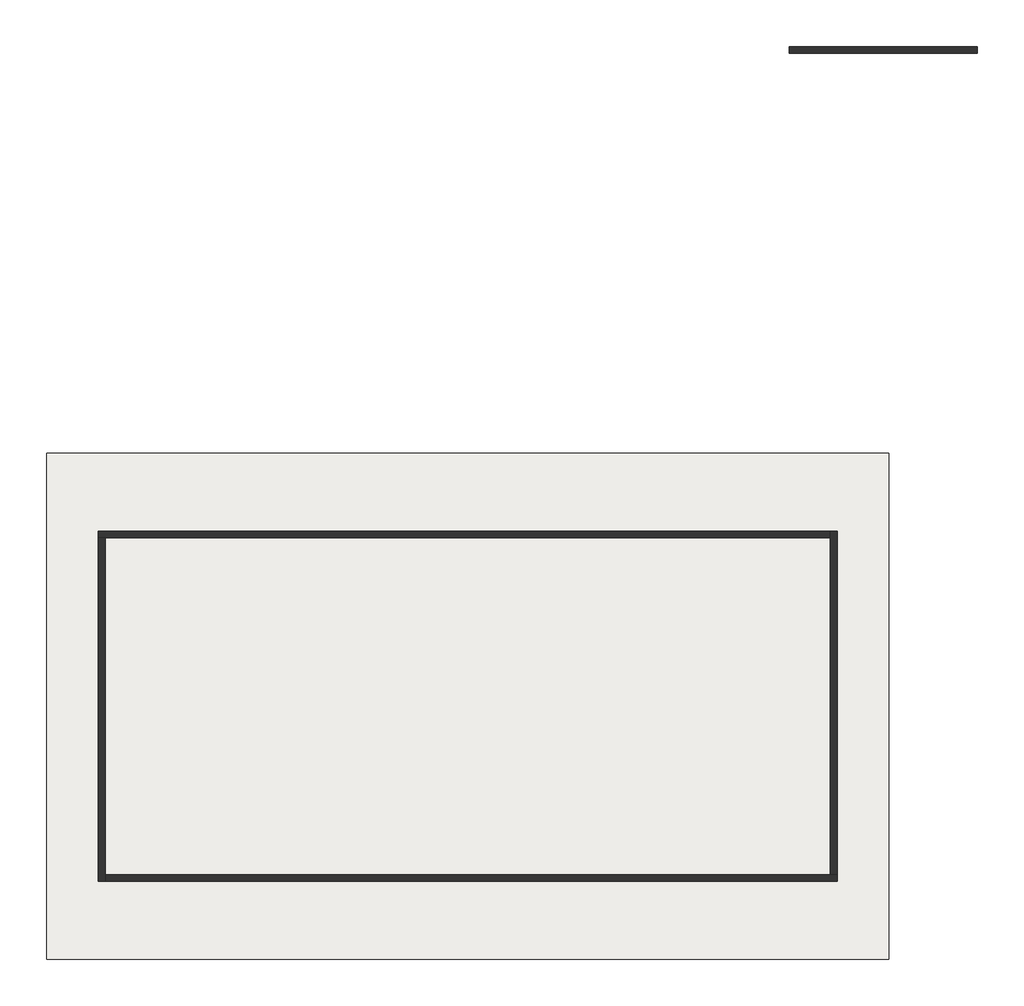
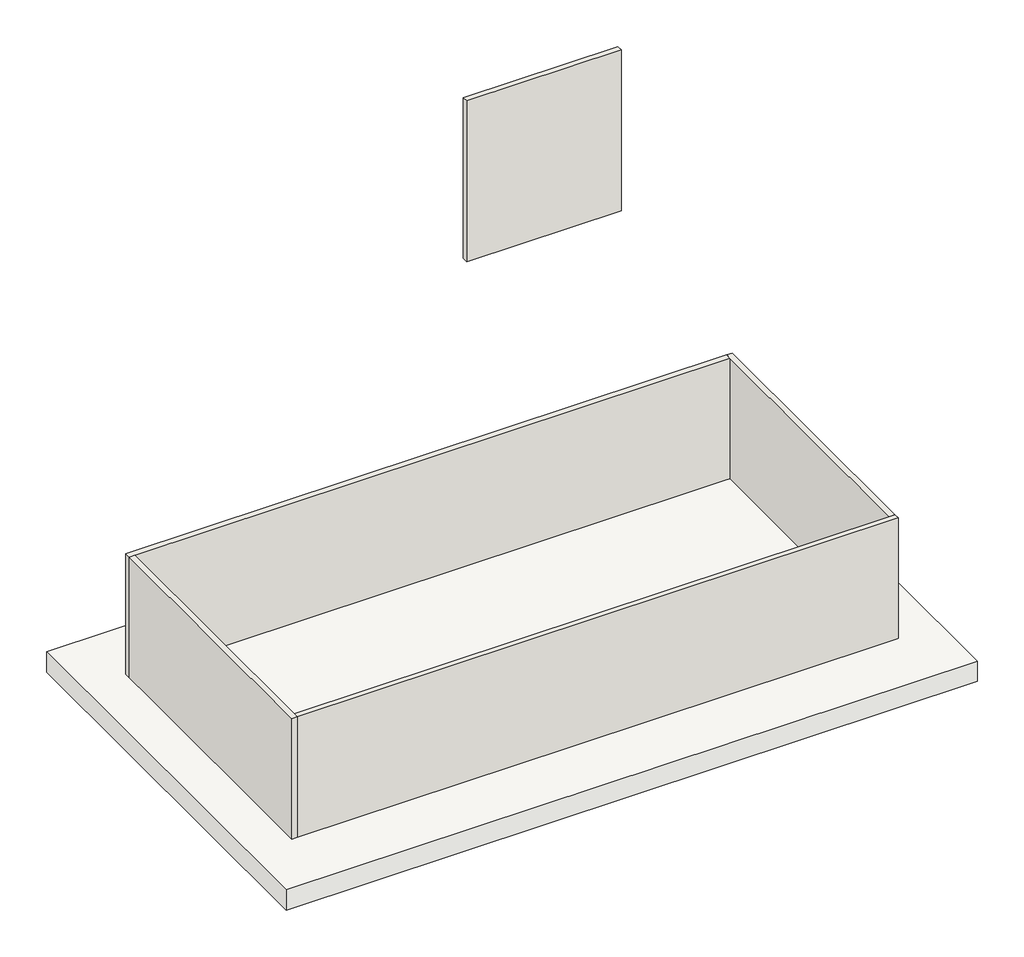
# One storey: 5 walls, 1 slab.
"""IFC4 building model written with IfcOpenShell, lengths in millimetres."""

from ifc_helpers import new_model, si_unit, frame, origin, origin_with_axes, place, context, project, spatial, polyline, outline, extrude, faceted_brep, element, save

model = new_model("IFC4")

# Units and contexts
model_context = context("Model", 3, world=origin())
ifc_project = project(units=[si_unit("LENGTHUNIT", "METRE", prefix="MILLI")], contexts=[model_context])

# Site, building, storey
site = spatial("IfcSite", under=ifc_project)
building = spatial("IfcBuilding", under=site)
storey = spatial("IfcBuildingStorey", under=building, Name="Nível 1", Elevation=1000.0)

# Slab
placement = place(None, origin())
element("IfcSlab", 1, ObjectType="1m", at=placement, inside=storey, context=model_context, shape_type="SweptSolid", body=[
    extrude(outline(polyline([(18668.4618613, 6230.9722757), (18668.4618613, -13297.0277243), (-13859.5381387, -13297.0277243), (-13859.5381387, 6230.9722757), (18668.4618613, 6230.9722757)])), origin_with_axes(), (0.0, 0.0, 1.0), 1000.0),
])

# Walls
element("IfcWall", 2, ObjectType="CW 102-50-100p", at=placement, inside=storey, context=model_context, shape_type="Brep", body=[
    faceted_brep([(-11859.5381387, 2966.9722757, 1000.0), (-11595.5381387, 2966.9722757, 1000.0), (16404.4618613, 2966.9722757, 1000.0), (16404.4618613, 2966.9722757, 7000.0), (-11595.5381387, 2966.9722757, 7000.0), (-11859.5381387, 2966.9722757, 7000.0), (-11859.5381387, 3230.9722757, 1000.0), (-11859.5381387, 3230.9722757, 7000.0), (16404.4618613, 3230.9722757, 7000.0), (16404.4618613, 3230.9722757, 1000.0)], [[[0, 1, 2, 3, 4, 5]], [[6, 7, 8, 9]], [[2, 1, 0, 6, 9]], [[5, 4, 3, 8, 7]], [[0, 5, 7, 6]], [[3, 2, 9, 8]]]),
])
element("IfcWall", 3, ObjectType="CW 102-50-100p", at=placement, inside=storey, context=model_context, shape_type="Brep", body=[
    faceted_brep([(-11595.5381387, -10297.0277243, 1000.0), (-11595.5381387, -10033.0277243, 1000.0), (-11595.5381387, 2966.9722757, 1000.0), (-11595.5381387, 2966.9722757, 7000.0), (-11595.5381387, -10033.0277243, 7000.0), (-11595.5381387, -10297.0277243, 7000.0), (-11859.5381387, -10297.0277243, 1000.0), (-11859.5381387, -10297.0277243, 7000.0), (-11859.5381387, 2966.9722757, 7000.0), (-11859.5381387, 2966.9722757, 1000.0)], [[[0, 1, 2, 3, 4, 5]], [[6, 7, 8, 9]], [[2, 1, 0, 6, 9]], [[5, 4, 3, 8, 7]], [[0, 5, 7, 6]], [[3, 2, 9, 8]]]),
])
element("IfcWall", 4, ObjectType="CW 102-50-100p", at=placement, inside=storey, context=model_context, shape_type="Brep", body=[
    faceted_brep([(16668.4618613, -10033.0277243, 1000.0), (16404.4618613, -10033.0277243, 1000.0), (-11595.5381387, -10033.0277243, 1000.0), (-11595.5381387, -10033.0277243, 7000.0), (16404.4618613, -10033.0277243, 7000.0), (16668.4618613, -10033.0277243, 7000.0), (16668.4618613, -10297.0277243, 1000.0), (16668.4618613, -10297.0277243, 7000.0), (-11595.5381387, -10297.0277243, 7000.0), (-11595.5381387, -10297.0277243, 1000.0)], [[[0, 1, 2, 3, 4, 5]], [[6, 7, 8, 9]], [[2, 1, 0, 6, 9]], [[5, 4, 3, 8, 7]], [[0, 5, 7, 6]], [[3, 2, 9, 8]]]),
])
element("IfcWall", 5, ObjectType="CW 102-50-100p", at=placement, inside=storey, context=model_context, shape_type="Brep", body=[
    faceted_brep([(16404.4618613, 3230.9722757, 1000.0), (16404.4618613, 2966.9722757, 1000.0), (16404.4618613, -10033.0277243, 1000.0), (16404.4618613, -10033.0277243, 7000.0), (16404.4618613, 2966.9722757, 7000.0), (16404.4618613, 3230.9722757, 7000.0), (16668.4618613, 3230.9722757, 1000.0), (16668.4618613, 3230.9722757, 7000.0), (16668.4618613, -10033.0277243, 7000.0), (16668.4618613, -10033.0277243, 1000.0)], [[[0, 1, 2, 3, 4, 5]], [[6, 7, 8, 9]], [[2, 1, 0, 6, 9]], [[5, 4, 3, 8, 7]], [[0, 5, 7, 6]], [[3, 2, 9, 8]]]),
])
element("IfcWall", 6, ObjectType="CW 102-50-100p", at=placement, inside=storey, context=model_context, shape_type="SweptSolid", body=[
    extrude(outline(polyline([(22091.4842802, 21682.007266), (14827.4842802, 21682.007266), (14827.4842802, 21946.007266), (22091.4842802, 21946.007266), (22091.4842802, 21682.007266)])), frame((0.0, 0.0, 1000.0), z_axis=(0.0, 0.0, 1.0), x_axis=(1.0, 0.0, 0.0)), (0.0, 0.0, 1.0), 8000.0),
])

save(model, "model.ifc")
